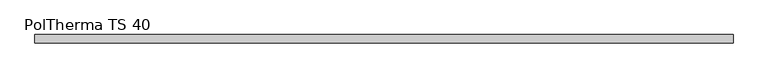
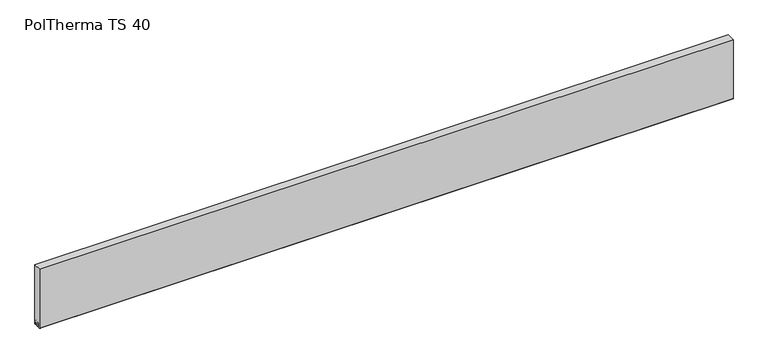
"""IFC4 building model written with IfcOpenShell, lengths in millimetres: plate geometry, Europanels_Poltherma TS_Hz : PolTherma TS 40."""

from ifc_helpers import new_model, si_unit, point, frame, frame_2d, origin, place, context, project, spatial, polyline, circle_curve, trimmed, segment, composite_curve, outline, extrude, source, transform, mapped, element, save


def poltherma_ts_40_ccc66070(model_context):
    return source(origin(), model_context, "Body", "SweptSolid", [
        extrude(outline(composite_curve([segment(polyline([(-20.0, 300.0), (20.0, 300.0), (20.0, 3.8074585)]), True, "CONTINUOUS"), segment(trimmed(circle_curve(frame_2d((17.6334587, 3.8074585)), 2.3665413), [point((20.0, 3.8074585))], [point((15.2703732, 3.6796133))], False, "CARTESIAN"), True, "CONTINUOUS"), segment(polyline([(15.2703732, 3.6796133), (14.3268153, 21.1203008)]), True, "CONTINUOUS"), segment(trimmed(circle_curve(frame_2d((11.0497759, 20.9430098)), 3.2818316), [point((14.3268153, 21.1203008))], [point((7.7733842, 21.1318916))], True, "CARTESIAN"), True, "CONTINUOUS"), segment(polyline([(7.7733842, 21.1318916), (6.7366349, 3.1481762)]), True, "CONTINUOUS"), segment(trimmed(circle_curve(frame_2d((4.9895357, 3.2488953)), 1.75), [point((6.7366349, 3.1481762))], [point((4.9895357, 1.4988953))], False, "CARTESIAN"), True, "CONTINUOUS"), segment(polyline([(4.9895357, 1.4988953), (-0.5507777, 1.4988953)]), True, "CONTINUOUS"), segment(trimmed(circle_curve(frame_2d((-0.5507777, 3.2988953)), 1.8), [point((-0.5507777, 1.4988953))], [point((-2.3477941, 3.1952985))], False, "CARTESIAN"), True, "CONTINUOUS"), segment(polyline([(-2.3477941, 3.1952985), (-3.3842966, 21.1747334)]), True, "CONTINUOUS"), segment(trimmed(circle_curve(frame_2d((-6.3793238, 21.0020721)), 3.0), [point((-3.3842966, 21.1747334))], [point((-6.3793238, 24.0020721))], True, "CARTESIAN"), True, "CONTINUOUS"), segment(polyline([(-6.3793238, 24.0020721), (-9.3209015, 24.0020721)]), True, "CONTINUOUS"), segment(trimmed(circle_curve(frame_2d((-9.3209015, 21.0020721)), 3.0), [point((-9.3209015, 24.0020721))], [point((-12.3165207, 21.1641379))], True, "CARTESIAN"), True, "CONTINUOUS"), segment(polyline([(-12.3165207, 21.1641379), (-13.2780726, 3.3908514)]), True, "CONTINUOUS"), segment(trimmed(circle_curve(frame_2d((-15.2751521, 3.4988953)), 2.0), [point((-13.2780726, 3.3908514))], [point((-15.2751521, 1.4988953))], False, "CARTESIAN"), True, "CONTINUOUS"), segment(polyline([(-15.2751521, 1.4988953), (-18.0, 1.4988953)]), True, "CONTINUOUS"), segment(trimmed(circle_curve(frame_2d((-18.0, 3.4988953)), 2.0), [point((-18.0, 1.4988953))], [point((-20.0, 3.4988953))], False, "CARTESIAN"), True, "CONTINUOUS"), segment(polyline([(-20.0, 3.4988953), (-20.0, 300.0)]), True, "CONTINUOUS")], self_intersect=False)), frame((-1650.0, 0.0, 0.0), z_axis=(1.0, 0.0, 0.0), x_axis=(0.0, 1.0, 0.0)), (0.0, 0.0, 1.0), 3300.0),
    ])


if __name__ == "__main__":
    model = new_model("IFC4")
    model_context = context("Model", 3, world=origin())
    ifc_project = project(units=[si_unit("LENGTHUNIT", "METRE", prefix="MILLI")], contexts=[model_context])
    site = spatial("IfcSite", under=ifc_project)
    building = spatial("IfcBuilding", under=site)
    placement = place(None, origin())
    poltherma_ts_40_shape = poltherma_ts_40_ccc66070(model_context)
    element("IfcPlate", 1, ObjectType="Europanels_Poltherma TS_Hz : PolTherma TS 40", at=placement, inside=building, context=model_context, shape_type="MappedRepresentation", body=[
        mapped(poltherma_ts_40_shape, transform((0.0, 0.0, 0.0), x_axis=(1.0, 0.0, 0.0), y_axis=(0.0, 1.0, 0.0), z_axis=(0.0, 0.0, 1.0))),
    ])
    save(model, "model.ifc")
